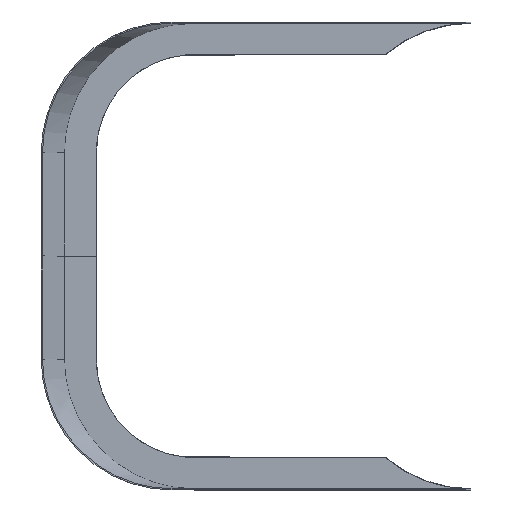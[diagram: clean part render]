
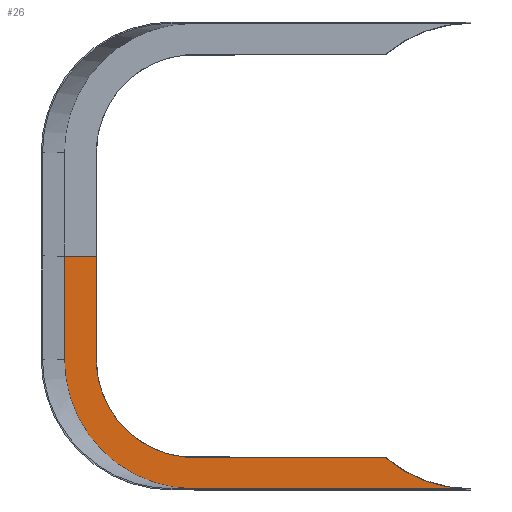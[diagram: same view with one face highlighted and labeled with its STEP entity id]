
A CAD part, top view. The second image highlights one B-rep face of the part: STEP entity #26.
In plain terms, the highlighted free-form (B-spline) face has degree [3, 3] with [4, 4] control points.
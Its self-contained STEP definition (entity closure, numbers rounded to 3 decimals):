
#26=ADVANCED_FACE('',(#52),#380,.T.);
#52=FACE_OUTER_BOUND('',#78,.T.);
#78=EDGE_LOOP('',(#144,#145,#146,#147,#148,#149));
#144=ORIENTED_EDGE('',*,*,#237,.T.);
#145=ORIENTED_EDGE('',*,*,#240,.T.);
#146=ORIENTED_EDGE('',*,*,#221,.F.);
#147=ORIENTED_EDGE('',*,*,#222,.T.);
#148=ORIENTED_EDGE('',*,*,#231,.F.);
#149=ORIENTED_EDGE('',*,*,#227,.T.);
#221=EDGE_CURVE('',#343,#342,#283,.T.);
#222=EDGE_CURVE('',#343,#334,#284,.T.);
#227=EDGE_CURVE('',#346,#352,#289,.T.);
#231=EDGE_CURVE('',#346,#334,#293,.T.);
#237=EDGE_CURVE('',#352,#350,#299,.T.);
#240=EDGE_CURVE('',#350,#342,#302,.T.);
#283=B_SPLINE_CURVE_WITH_KNOTS('',3,(#1496,#1497,#1498,#1499,#1500,#1501),
 .UNSPECIFIED.,.F.,.F.,(4,2,4),(-1005.407,-502.749,0.),
 .UNSPECIFIED.);
#284=B_SPLINE_CURVE_WITH_KNOTS('',3,(#1502,#1503,#1504,#1505),
 .UNSPECIFIED.,.F.,.F.,(4,4),(0.,1363.857),.UNSPECIFIED.);
#289=B_SPLINE_CURVE_WITH_KNOTS('',3,(#1520,#1521,#1522,#1523,#1524,#1525,
#1526,#1527,#1528,#1529,#1530,#1531,#1532,#1533,#1534,#1535,#1536,#1537,
#1538,#1539,#1540,#1541,#1542,#1543,#1544,#1545,#1546,#1547,#1548,#1549,
#1550,#1551,#1552,#1553,#1554,#1555,#1556,#1557,#1558,#1559,#1560,#1561,
#1562,#1563,#1564,#1565,#1566,#1567,#1568,#1569,#1570,#1571),
 .UNSPECIFIED.,.F.,.F.,(4,3,3,1,1,1,1,1,1,1,1,1,1,1,1,1,1,1,1,1,1,1,1,1,
1,1,1,1,1,1,1,1,1,1,1,1,1,1,1,3,3,4),(-4857.691,-3912.884,
-3910.852,-3876.822,-3874.847,-3840.759,
-3838.842,-3793.066,-3791.225,-3757.426,-3755.642,
-3721.786,-3720.059,-3686.147,-3684.476,
-3650.507,-3648.893,-3602.814,-3601.276,
-3566.751,-3565.271,-3530.689,-3529.266,
-3494.6,-3493.235,-3458.511,-3457.203,
-3410.783,-3409.552,-3375.118,-3373.943,
-3339.452,-3338.334,-3268.121,-3267.117,-3220.393,
-3219.465,-3184.418,-3183.547,-3148.216,
-3147.402,-2637.428),.UNSPECIFIED.);
#293=B_SPLINE_CURVE_WITH_KNOTS('',3,(#1584,#1585,#1586,#1587),
 .UNSPECIFIED.,.F.,.F.,(4,4),(551.458,1005.267),
 .UNSPECIFIED.);
#299=B_SPLINE_CURVE_WITH_KNOTS('',1,(#1604,#1605),.UNSPECIFIED.,.F.,.F.,
(2,2),(-449.033,-290.832),.UNSPECIFIED.);
#302=B_SPLINE_CURVE_WITH_KNOTS('',3,(#1614,#1615,#1616,#1617),
 .UNSPECIFIED.,.F.,.F.,(4,4),(509.967,1019.933),
 .UNSPECIFIED.);
#334=VERTEX_POINT('',#1394);
#342=VERTEX_POINT('',#1402);
#343=VERTEX_POINT('',#1403);
#346=VERTEX_POINT('',#1406);
#350=VERTEX_POINT('',#1410);
#352=VERTEX_POINT('',#1412);
#380=B_SPLINE_SURFACE_WITH_KNOTS('',3,3,((#924,#925,#926,#927),(#928,#929,
#930,#931),(#932,#933,#934,#935),(#936,#937,#938,#939)),.UNSPECIFIED.,.F.,
 .F.,.F.,(4,4),(4,4),(0.,2468.),(0.,2598.067),
 .UNSPECIFIED.);
#924=CARTESIAN_POINT('',(65631.581,-6065.025,-950.444));
#925=CARTESIAN_POINT('',(64765.559,-6065.025,-950.444));
#926=CARTESIAN_POINT('',(63899.537,-6065.025,-950.444));
#927=CARTESIAN_POINT('',(63033.515,-6065.025,-950.444));
#928=CARTESIAN_POINT('',(65631.581,-5242.358,-950.444));
#929=CARTESIAN_POINT('',(64765.559,-5242.358,-950.444));
#930=CARTESIAN_POINT('',(63899.537,-5242.358,-950.444));
#931=CARTESIAN_POINT('',(63033.515,-5242.358,-950.444));
#932=CARTESIAN_POINT('',(65631.581,-4419.691,-950.444));
#933=CARTESIAN_POINT('',(64765.559,-4419.691,-950.444));
#934=CARTESIAN_POINT('',(63899.537,-4419.691,-950.444));
#935=CARTESIAN_POINT('',(63033.515,-4419.691,-950.444));
#936=CARTESIAN_POINT('',(65631.581,-3597.025,-950.444));
#937=CARTESIAN_POINT('',(64765.559,-3597.025,-950.444));
#938=CARTESIAN_POINT('',(63899.537,-3597.025,-950.444));
#939=CARTESIAN_POINT('',(63033.515,-3597.025,-950.444));
#1394=CARTESIAN_POINT('',(65631.454,-5903.025,-950.444));
#1402=CARTESIAN_POINT('',(63627.551,-5262.999,-950.444));
#1403=CARTESIAN_POINT('',(64267.577,-5903.025,-950.444));
#1406=CARTESIAN_POINT('',(65215.081,-5749.025,-950.444));
#1410=CARTESIAN_POINT('',(63627.551,-4753.025,-950.444));
#1412=CARTESIAN_POINT('',(63785.753,-4753.025,-950.444));
#1496=CARTESIAN_POINT('',(64267.577,-5903.025,-950.444));
#1497=CARTESIAN_POINT('',(64097.866,-5903.045,-950.444));
#1498=CARTESIAN_POINT('',(63935.044,-5835.583,-950.444));
#1499=CARTESIAN_POINT('',(63695.016,-5595.586,-950.444));
#1500=CARTESIAN_POINT('',(63627.531,-5432.742,-950.444));
#1501=CARTESIAN_POINT('',(63627.551,-5262.999,-950.444));
#1502=CARTESIAN_POINT('',(64267.577,-5903.025,-950.444));
#1503=CARTESIAN_POINT('',(64722.197,-5903.025,-950.444));
#1504=CARTESIAN_POINT('',(65176.835,-5903.025,-950.444));
#1505=CARTESIAN_POINT('',(65631.454,-5903.025,-950.444));
#1520=CARTESIAN_POINT('',(65215.081,-5749.025,-950.444));
#1521=CARTESIAN_POINT('',(64900.647,-5749.025,-950.444));
#1522=CARTESIAN_POINT('',(64586.213,-5749.025,-950.444));
#1523=CARTESIAN_POINT('',(64271.779,-5749.025,-950.444));
#1524=CARTESIAN_POINT('',(64271.103,-5749.025,-950.444));
#1525=CARTESIAN_POINT('',(64270.426,-5749.023,-950.444));
#1526=CARTESIAN_POINT('',(64269.75,-5749.021,-950.444));
#1527=CARTESIAN_POINT('',(64258.425,-5748.973,-950.444));
#1528=CARTESIAN_POINT('',(64246.444,-5748.505,-950.444));
#1529=CARTESIAN_POINT('',(64223.184,-5746.733,-950.444));
#1530=CARTESIAN_POINT('',(64210.618,-5745.305,-950.444));
#1531=CARTESIAN_POINT('',(64183.707,-5741.235,-950.444));
#1532=CARTESIAN_POINT('',(64167.53,-5737.97,-950.444));
#1533=CARTESIAN_POINT('',(64141.264,-5731.318,-950.444));
#1534=CARTESIAN_POINT('',(64129.303,-5727.818,-950.444));
#1535=CARTESIAN_POINT('',(64107.376,-5720.522,-950.444));
#1536=CARTESIAN_POINT('',(64095.72,-5716.164,-950.444));
#1537=CARTESIAN_POINT('',(64074.367,-5707.278,-950.444));
#1538=CARTESIAN_POINT('',(64063.078,-5702.088,-950.444));
#1539=CARTESIAN_POINT('',(64042.414,-5691.658,-950.444));
#1540=CARTESIAN_POINT('',(64031.551,-5685.666,-950.444));
#1541=CARTESIAN_POINT('',(64008.249,-5671.679,-950.444));
#1542=CARTESIAN_POINT('',(63994.616,-5662.559,-950.444));
#1543=CARTESIAN_POINT('',(63972.666,-5646.265,-950.444));
#1544=CARTESIAN_POINT('',(63962.91,-5638.447,-950.444));
#1545=CARTESIAN_POINT('',(63945.135,-5623.088,-950.444));
#1546=CARTESIAN_POINT('',(63935.998,-5614.582,-950.444));
#1547=CARTESIAN_POINT('',(63919.387,-5597.932,-950.444));
#1548=CARTESIAN_POINT('',(63910.91,-5588.782,-950.444));
#1549=CARTESIAN_POINT('',(63895.558,-5570.928,-950.444));
#1550=CARTESIAN_POINT('',(63887.794,-5561.19,-950.444));
#1551=CARTESIAN_POINT('',(63871.493,-5539.117,-950.444));
#1552=CARTESIAN_POINT('',(63862.458,-5525.535,-950.444));
#1553=CARTESIAN_POINT('',(63848.458,-5502.077,-950.444));
#1554=CARTESIAN_POINT('',(63842.561,-5491.319,-950.444));
#1555=CARTESIAN_POINT('',(63832.102,-5470.466,-950.444));
#1556=CARTESIAN_POINT('',(63827.015,-5459.323,-950.444));
#1557=CARTESIAN_POINT('',(63813.571,-5426.772,-950.444));
#1558=CARTESIAN_POINT('',(63806.013,-5403.85,-950.444));
#1559=CARTESIAN_POINT('',(63796.48,-5365.774,-950.444));
#1560=CARTESIAN_POINT('',(63793.319,-5349.874,-950.444));
#1561=CARTESIAN_POINT('',(63789.28,-5322.649,-950.444));
#1562=CARTESIAN_POINT('',(63787.929,-5310.453,-950.444));
#1563=CARTESIAN_POINT('',(63786.189,-5286.805,-950.444));
#1564=CARTESIAN_POINT('',(63785.753,-5274.757,-950.444));
#1565=CARTESIAN_POINT('',(63785.753,-5262.999,-950.444));
#1566=CARTESIAN_POINT('',(63785.753,-5262.728,-950.444));
#1567=CARTESIAN_POINT('',(63785.753,-5262.457,-950.444));
#1568=CARTESIAN_POINT('',(63785.753,-5262.186,-950.444));
#1569=CARTESIAN_POINT('',(63785.753,-5092.466,-950.444));
#1570=CARTESIAN_POINT('',(63785.753,-4922.745,-950.444));
#1571=CARTESIAN_POINT('',(63785.753,-4753.025,-950.444));
#1584=CARTESIAN_POINT('',(65215.081,-5749.025,-950.444));
#1585=CARTESIAN_POINT('',(65330.626,-5848.033,-950.444));
#1586=CARTESIAN_POINT('',(65478.222,-5903.025,-950.444));
#1587=CARTESIAN_POINT('',(65631.454,-5903.025,-950.444));
#1604=CARTESIAN_POINT('',(63785.753,-4753.025,-950.444));
#1605=CARTESIAN_POINT('',(63627.551,-4753.025,-950.444));
#1614=CARTESIAN_POINT('',(63627.551,-4753.025,-950.444));
#1615=CARTESIAN_POINT('',(63627.551,-4923.017,-950.444));
#1616=CARTESIAN_POINT('',(63627.551,-5093.01,-950.444));
#1617=CARTESIAN_POINT('',(63627.551,-5262.999,-950.444));
